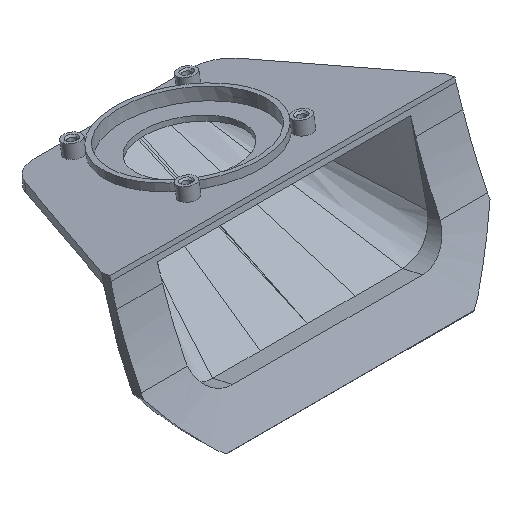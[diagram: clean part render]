
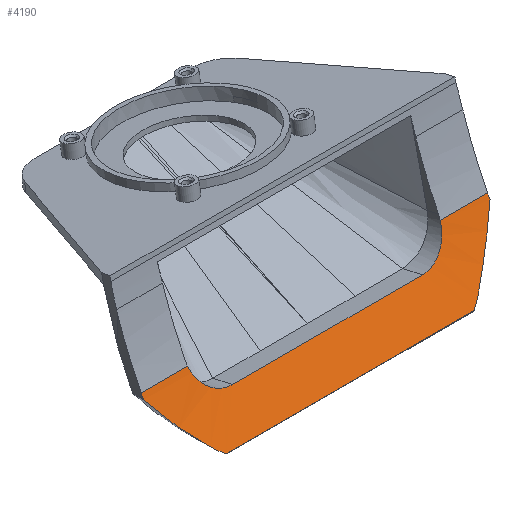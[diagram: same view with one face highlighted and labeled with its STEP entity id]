
A CAD part, isometric view. The second image highlights one B-rep face of the part: STEP entity #4190.
In plain terms, the highlighted face is a extrusion surface.
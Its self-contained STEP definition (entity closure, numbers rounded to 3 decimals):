
#521=DIRECTION('',(-1.,0.,0.));
#522=VECTOR('',#521,78.216);
#523=CARTESIAN_POINT('',(39.275,-67.658,405.641));
#524=LINE('',#523,#522);
#525=DIRECTION('',(1.,0.,0.));
#526=VECTOR('',#525,14.646);
#527=CARTESIAN_POINT('',(-54.55,-56.271,424.475));
#528=LINE('',#527,#526);
#529=DIRECTION('',(1.,0.,0.));
#530=VECTOR('',#529,59.998);
#531=CARTESIAN_POINT('',(-30.,-60.573,416.608));
#532=LINE('',#531,#530);
#533=CARTESIAN_POINT('',(29.998,-60.573,416.608));
#534=CARTESIAN_POINT('',(30.574,-60.573,416.608));
#535=CARTESIAN_POINT('',(31.742,-60.521,416.697));
#536=CARTESIAN_POINT('',(33.514,-60.267,417.13));
#537=CARTESIAN_POINT('',(35.165,-59.845,417.858));
#538=CARTESIAN_POINT('',(36.56,-59.325,418.769));
#539=CARTESIAN_POINT('',(37.871,-58.63,420.009));
#540=CARTESIAN_POINT('',(38.81,-57.918,421.315));
#541=CARTESIAN_POINT('',(39.516,-57.146,422.766));
#542=CARTESIAN_POINT('',(39.813,-56.568,423.888));
#543=CARTESIAN_POINT('',(39.902,-56.271,424.475));
#545=DIRECTION('',(1.,0.,0.));
#546=VECTOR('',#545,14.982);
#547=CARTESIAN_POINT('',(39.902,-56.271,424.475));
#548=LINE('',#547,#546);
#553=CARTESIAN_POINT('',(39.275,-67.658,405.641));
#554=CARTESIAN_POINT('',(39.37,-67.62,405.695));
#555=CARTESIAN_POINT('',(39.581,-67.525,405.83));
#556=CARTESIAN_POINT('',(39.893,-67.37,406.051));
#557=CARTESIAN_POINT('',(40.237,-67.19,406.31));
#558=CARTESIAN_POINT('',(40.602,-66.989,406.599));
#559=CARTESIAN_POINT('',(40.993,-66.766,406.921));
#560=CARTESIAN_POINT('',(41.412,-66.519,407.28));
#561=CARTESIAN_POINT('',(41.863,-66.246,407.678));
#562=CARTESIAN_POINT('',(42.348,-65.947,408.119));
#563=CARTESIAN_POINT('',(42.87,-65.618,408.606));
#564=CARTESIAN_POINT('',(43.431,-65.258,409.143));
#565=CARTESIAN_POINT('',(44.035,-64.864,409.736));
#566=CARTESIAN_POINT('',(44.687,-64.433,410.392));
#567=CARTESIAN_POINT('',(45.391,-63.962,411.117));
#568=CARTESIAN_POINT('',(46.149,-63.448,411.916));
#569=CARTESIAN_POINT('',(46.968,-62.887,412.802));
#570=CARTESIAN_POINT('',(47.854,-62.273,413.787));
#571=CARTESIAN_POINT('',(48.813,-61.601,414.883));
#572=CARTESIAN_POINT('',(49.849,-60.867,416.107));
#573=CARTESIAN_POINT('',(50.97,-60.06,417.482));
#574=CARTESIAN_POINT('',(52.178,-59.164,419.048));
#575=CARTESIAN_POINT('',(53.471,-58.165,420.851));
#576=CARTESIAN_POINT('',(54.386,-57.43,422.228));
#577=CARTESIAN_POINT('',(54.884,-57.048,422.961));
#594=CARTESIAN_POINT('',(54.884,-57.048,422.961));
#595=CARTESIAN_POINT('',(54.884,-56.786,423.464));
#596=CARTESIAN_POINT('',(54.884,-56.527,423.968));
#597=CARTESIAN_POINT('',(54.884,-56.271,424.475));
#771=CARTESIAN_POINT('',(-30.,-60.573,416.608));
#772=CARTESIAN_POINT('',(-30.564,-60.573,416.608));
#773=CARTESIAN_POINT('',(-31.718,-60.523,416.693));
#774=CARTESIAN_POINT('',(-33.503,-60.27,417.124));
#775=CARTESIAN_POINT('',(-35.172,-59.844,417.86));
#776=CARTESIAN_POINT('',(-36.563,-59.324,418.77));
#777=CARTESIAN_POINT('',(-37.868,-58.634,420.002));
#778=CARTESIAN_POINT('',(-38.822,-57.91,421.328));
#779=CARTESIAN_POINT('',(-39.529,-57.13,422.795));
#780=CARTESIAN_POINT('',(-39.817,-56.561,423.901));
#781=CARTESIAN_POINT('',(-39.904,-56.271,424.475));
#783=CARTESIAN_POINT('',(-39.904,-56.271,424.475));
#794=CARTESIAN_POINT('',(-54.55,-56.271,424.475));
#795=CARTESIAN_POINT('',(-54.55,-56.527,423.968));
#796=CARTESIAN_POINT('',(-54.55,-56.786,423.464));
#797=CARTESIAN_POINT('',(-54.55,-57.048,422.961));
#813=CARTESIAN_POINT('',(-54.55,-57.048,422.961));
#814=CARTESIAN_POINT('',(-54.05,-57.432,422.225));
#815=CARTESIAN_POINT('',(-53.131,-58.17,420.842));
#816=CARTESIAN_POINT('',(-51.832,-59.173,419.032));
#817=CARTESIAN_POINT('',(-50.619,-60.072,417.46));
#818=CARTESIAN_POINT('',(-49.493,-60.882,416.08));
#819=CARTESIAN_POINT('',(-48.456,-61.618,414.856));
#820=CARTESIAN_POINT('',(-47.497,-62.289,413.761));
#821=CARTESIAN_POINT('',(-46.612,-62.902,412.779));
#822=CARTESIAN_POINT('',(-45.796,-63.461,411.897));
#823=CARTESIAN_POINT('',(-45.041,-63.973,411.1));
#824=CARTESIAN_POINT('',(-44.339,-64.442,410.378));
#825=CARTESIAN_POINT('',(-43.688,-64.872,409.724));
#826=CARTESIAN_POINT('',(-43.084,-65.266,409.131));
#827=CARTESIAN_POINT('',(-42.523,-65.626,408.594));
#828=CARTESIAN_POINT('',(-42.002,-65.954,408.107));
#829=CARTESIAN_POINT('',(-41.516,-66.254,407.667));
#830=CARTESIAN_POINT('',(-41.067,-66.525,407.27));
#831=CARTESIAN_POINT('',(-40.65,-66.771,406.913));
#832=CARTESIAN_POINT('',(-40.261,-66.993,406.593));
#833=CARTESIAN_POINT('',(-39.897,-67.193,406.305));
#834=CARTESIAN_POINT('',(-39.555,-67.372,406.048));
#835=CARTESIAN_POINT('',(-39.244,-67.526,405.828));
#836=CARTESIAN_POINT('',(-39.036,-67.62,405.695));
#837=CARTESIAN_POINT('',(-38.941,-67.658,405.641));
#3126=VERTEX_POINT('',#783);
#3127=CARTESIAN_POINT('',(-54.55,-56.271,
424.475));
#3128=VERTEX_POINT('',#3127);
#3157=VERTEX_POINT('',#533);
#3158=VERTEX_POINT('',#543);
#3161=CARTESIAN_POINT('',(39.275,-67.658,405.641));
#3162=CARTESIAN_POINT('',(-38.941,-67.658,
405.641));
#3163=VERTEX_POINT('',#3161);
#3164=VERTEX_POINT('',#3162);
#3165=VERTEX_POINT('',#813);
#3166=VERTEX_POINT('',#771);
#3167=CARTESIAN_POINT('',(54.884,-56.271,424.475));
#3168=VERTEX_POINT('',#3167);
#3169=VERTEX_POINT('',#594);
#4160=CARTESIAN_POINT('',(-54.184,-67.785,
405.461));
#4161=CARTESIAN_POINT('',(-54.184,-67.743,
405.521));
#4162=CARTESIAN_POINT('',(-54.184,-63.43,
411.642));
#4163=CARTESIAN_POINT('',(-54.184,-59.507,
418.046));
#4164=CARTESIAN_POINT('',(-54.184,-56.172,
424.671));
#4166=DIRECTION('',(1.,0.,0.));
#4167=VECTOR('',#4166,1.);
#4168=SURFACE_OF_LINEAR_EXTRUSION('',#4165,#4167);
#4170=ORIENTED_EDGE('',*,*,#4169,.T.);
#4172=ORIENTED_EDGE('',*,*,#4171,.F.);
#4174=ORIENTED_EDGE('',*,*,#4173,.F.);
#4176=ORIENTED_EDGE('',*,*,#4175,.T.);
#4178=ORIENTED_EDGE('',*,*,#4177,.F.);
#4180=ORIENTED_EDGE('',*,*,#4179,.T.);
#4181=ORIENTED_EDGE('',*,*,#4148,.T.);
#4183=ORIENTED_EDGE('',*,*,#4182,.T.);
#4185=ORIENTED_EDGE('',*,*,#4184,.F.);
#4187=ORIENTED_EDGE('',*,*,#4186,.F.);
#4188=EDGE_LOOP('',(#4170,#4172,#4174,#4176,#4178,#4180,#4181,#4183,#4185,
#4187));
#4189=FACE_OUTER_BOUND('',#4188,.F.);
#4190=ADVANCED_FACE('',(#4189),#4168,.F.);
#544=B_SPLINE_CURVE_WITH_KNOTS('',3,(#533,#534,#535,#536,#537,#538,#539,#540,
#541,#542,#543),.UNSPECIFIED.,.F.,.F.,(4,1,1,1,1,1,1,1,4),(0.,0.125,0.25,
0.375,0.5,0.625,0.75,0.875,1.),.UNSPECIFIED.);
#578=B_SPLINE_CURVE_WITH_KNOTS('',3,(#553,#554,#555,#556,#557,#558,#559,#560,
#561,#562,#563,#564,#565,#566,#567,#568,#569,#570,#571,#572,#573,#574,#575,#576,
#577),.UNSPECIFIED.,.F.,.F.,(4,1,1,1,1,1,1,1,1,1,1,1,1,1,1,1,1,1,1,1,1,1,4),(
0.,0.045,0.091,0.136,0.182,
0.227,0.273,0.318,0.364,
0.409,0.455,0.5,0.545,0.591,
0.636,0.682,0.727,0.773,
0.818,0.864,0.909,0.955,1.),
.UNSPECIFIED.);
#598=B_SPLINE_CURVE_WITH_KNOTS('',3,(#594,#595,#596,#597),.UNSPECIFIED.,.F.,.F.,
(4,4),(0.,1.),.UNSPECIFIED.);
#782=B_SPLINE_CURVE_WITH_KNOTS('',3,(#771,#772,#773,#774,#775,#776,#777,#778,
#779,#780,#781),.UNSPECIFIED.,.F.,.F.,(4,1,1,1,1,1,1,1,4),(0.,0.125,0.25,
0.375,0.5,0.625,0.75,0.875,1.),.UNSPECIFIED.);
#798=B_SPLINE_CURVE_WITH_KNOTS('',3,(#794,#795,#796,#797),.UNSPECIFIED.,.F.,.F.,
(4,4),(0.,1.),.UNSPECIFIED.);
#838=B_SPLINE_CURVE_WITH_KNOTS('',3,(#813,#814,#815,#816,#817,#818,#819,#820,
#821,#822,#823,#824,#825,#826,#827,#828,#829,#830,#831,#832,#833,#834,#835,#836,
#837),.UNSPECIFIED.,.F.,.F.,(4,1,1,1,1,1,1,1,1,1,1,1,1,1,1,1,1,1,1,1,1,1,4),(
0.,0.045,0.091,0.136,0.182,
0.227,0.273,0.318,0.364,
0.409,0.455,0.5,0.545,0.591,
0.636,0.682,0.727,0.773,
0.818,0.864,0.909,0.955,1.),
.UNSPECIFIED.);
#4148=EDGE_CURVE('',#3157,#3158,#544,.T.);
#4165=B_SPLINE_CURVE_WITH_KNOTS('',3,(#4160,#4161,#4162,#4163,#4164),
.UNSPECIFIED.,.F.,.F.,(4,1,4),(0.,0.01,1.),.UNSPECIFIED.);
#4169=EDGE_CURVE('',#3163,#3164,#524,.T.);
#4171=EDGE_CURVE('',#3165,#3164,#838,.T.);
#4173=EDGE_CURVE('',#3128,#3165,#798,.T.);
#4175=EDGE_CURVE('',#3128,#3126,#528,.T.);
#4177=EDGE_CURVE('',#3166,#3126,#782,.T.);
#4179=EDGE_CURVE('',#3166,#3157,#532,.T.);
#4182=EDGE_CURVE('',#3158,#3168,#548,.T.);
#4184=EDGE_CURVE('',#3169,#3168,#598,.T.);
#4186=EDGE_CURVE('',#3163,#3169,#578,.T.);
